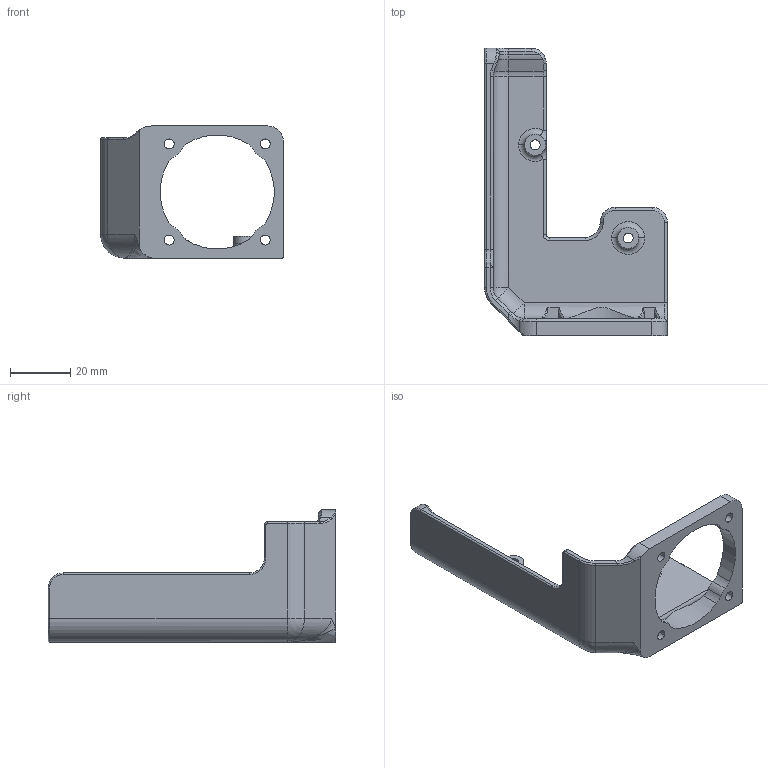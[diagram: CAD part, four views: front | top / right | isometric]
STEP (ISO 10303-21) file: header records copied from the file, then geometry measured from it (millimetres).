
FILE_DESCRIPTION(('CATIA V5 STEP Exchange'),'2;1');
FILE_NAME('E:\Dropbox\3D Printer Fan Duct Designs\1.) Artillery Sidewinder X1\3D Models\5015 Double Ducts\HEMERA MATRIX\BONUS_CLIP_DOUBLE FAN\COVER_MOTOR_DOUBLE-FAN\Cover Motor With Fan_Nut.stp','2022-01-08T19:38:00+00:00',('none'),('none'),'CATIA Version 5 Release 20 SP 1 (IN-10)','CATIA V5 STEP AP214','none');
FILE_SCHEMA(('AUTOMOTIVE_DESIGN { 1 0 10303 214 1 1 1 1 }'));
Length unit declared in the file: millimetre
Products named in the file (1): COVER_MOTORE_ESTRUSORE
Bounding box: 60.8 x 95.8 x 44 mm (x, y, z)
Volume: 20593.5 mm3; surface area: 15178.7 mm2
Topology: 1 solids, 1 shells, 296 faces, 752 edges, 461 vertices
Faces by surface type: plane 139, cylinder 80, bspline 26, torus 18, cone 17, extrusion 11, sphere 5
Entity records: 10747 total; most frequent: CARTESIAN_POINT 4130, ORIENTED_EDGE 1492, DIRECTION 1083, EDGE_CURVE 746, VERTEX_POINT 461, AXIS2_PLACEMENT_3D 422, VECTOR 420, LINE 409
